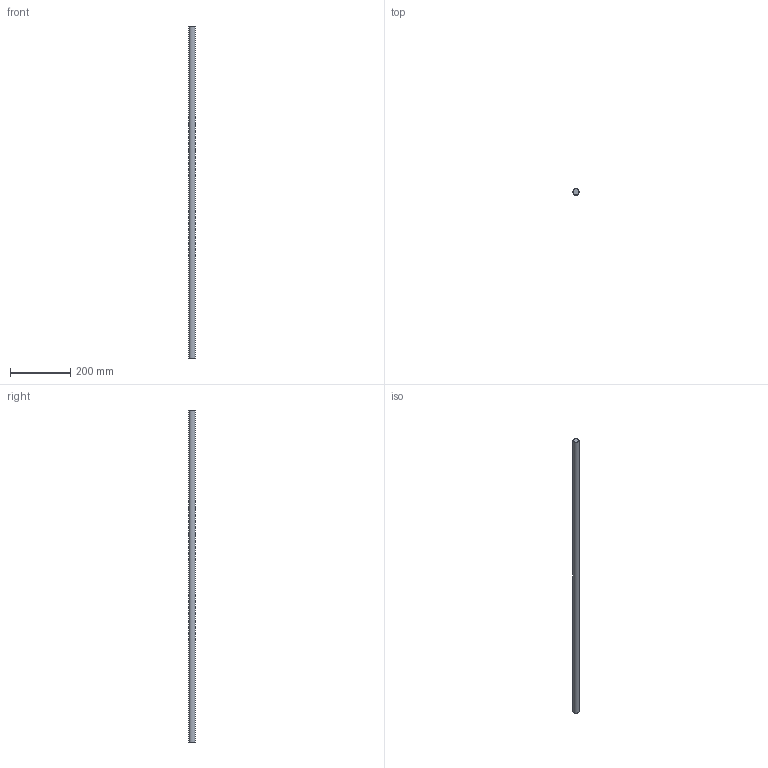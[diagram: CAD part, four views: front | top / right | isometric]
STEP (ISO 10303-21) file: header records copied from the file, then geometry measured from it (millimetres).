
FILE_DESCRIPTION(/* description */ (''),/* implementation_level */ '2;1');
FILE_NAME(/* name */ 'C:\Users\David\Desktop\stepFiles\Profilfuehrung\WF20x1100.stp',/* time_stamp */ '2018-06-24T15:49:04+02:00',/* author */ ('David'),/* organization */ (''),/* preprocessor_version */ 'ST-DEVELOPER v17',/* originating_system */ 'Autodesk Inventor 2019',/* authorisation */ '');
FILE_SCHEMA (('AUTOMOTIVE_DESIGN { 1 0 10303 214 3 1 1 }'));
Length unit declared in the file: millimetre
Products named in the file (1): Wellenfuehrung
Bounding box: 20 x 20 x 1100 mm (x, y, z)
Volume: 345575.2 mm3; surface area: 69743.4 mm2
Topology: 1 solids, 1 shells, 3 faces, 3 edges, 2 vertices
Faces by surface type: plane 2, cylinder 1
Full cylindrical faces by diameter (mm): 20 x1
Entity records: 98 total; most frequent: DIRECTION 13, CARTESIAN_POINT 9, ORIENTED_EDGE 6, AXIS2_PLACEMENT_3D 6, FACE_OUTER_BOUND 3, EDGE_LOOP 3, EDGE_CURVE 3, ADVANCED_FACE 3
